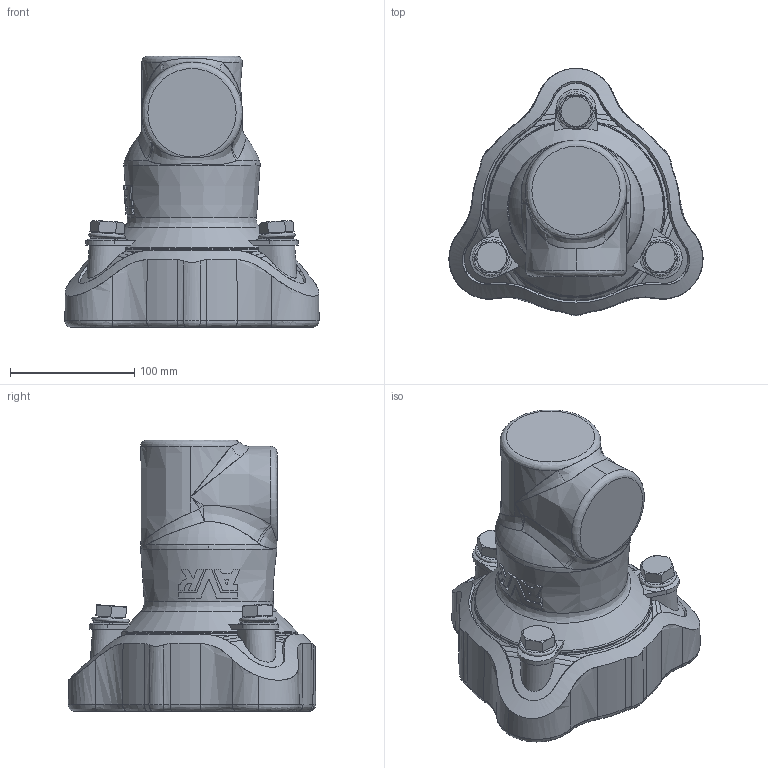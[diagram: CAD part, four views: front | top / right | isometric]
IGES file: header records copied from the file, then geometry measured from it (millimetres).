
Start section: SolidWorks IGES file using analytic representation for surfaces
Global section: file name: \\avksan2\techshare\PBM outline export from Enovia\O_634_00_DN065_069-091mm_AA0_igs.igs; native system: SolidWorks 2012; preprocessor: SolidWorks 2012; author: pbm; date: 160510.111454; units: millimetre
Bounding box: 204.29 x 198.83 x 218.51 mm (x, y, z)
Surface area: 177999.4 mm2 (no closed solid volume)
Topology: 0 solids, 0 shells, 421 faces, 2922 edges, 2899 vertices
Faces by surface type: bspline 253, revolution 168
